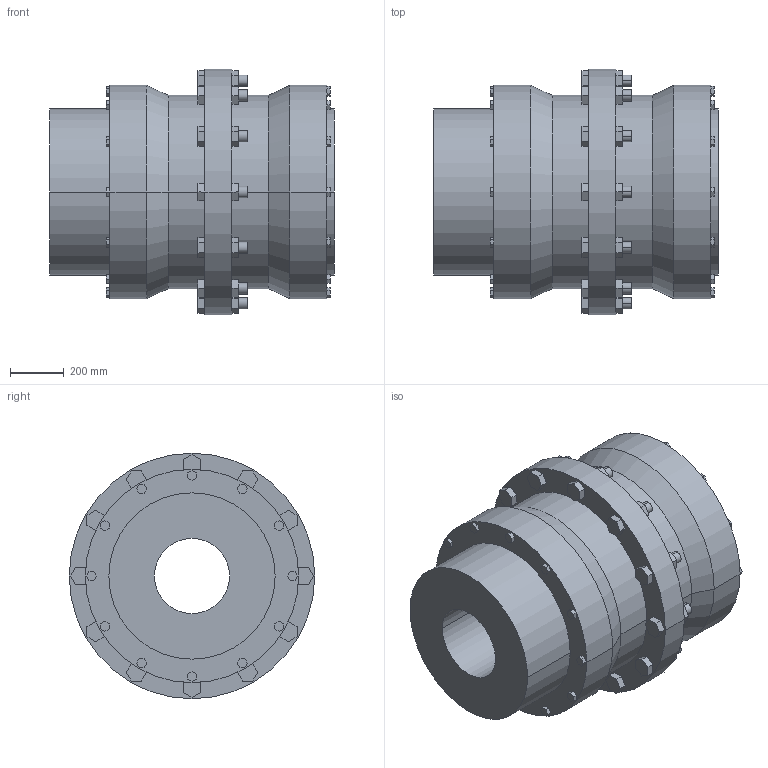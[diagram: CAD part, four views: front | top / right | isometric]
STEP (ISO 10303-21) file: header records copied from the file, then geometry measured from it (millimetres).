
FILE_DESCRIPTION((''),'2;1');
FILE_NAME('A19713500-0_ASM','2019-05-23T',('AB_Roschiwal'),('RENK AG'),'PRO/ENGINEER BY PARAMETRIC TECHNOLOGY CORPORATION, 2015440','PRO/ENGINEER BY PARAMETRIC TECHNOLOGY CORPORATION, 2015440','');
FILE_SCHEMA(('CONFIG_CONTROL_DESIGN'));
Length unit declared in the file: millimetre
Products named in the file (3): SBK375_GEHAEUSE; SBK375_NABE; A19713500-0_ASM
Assembly tree (3 placements, depth 2):
  A19713500-0_ASM
    SBK375_GEHAEUSE
    SBK375_NABE  x2
Bounding box: 1061 x 915 x 915 mm (x, y, z)
Volume: 330457688 mm3; surface area: 8291497.4 mm2
Topology: 3 solids, 3 shells, 422 faces, 1036 edges, 688 vertices
Faces by surface type: plane 362, cylinder 56, cone 4
Entity records: 12052 total; most frequent: CARTESIAN_POINT 2100, ORIENTED_EDGE 2024, DIRECTION 1940, EDGE_CURVE 1012, VECTOR 916, LINE 916, VERTEX_POINT 672, AXIS2_PLACEMENT_3D 512
